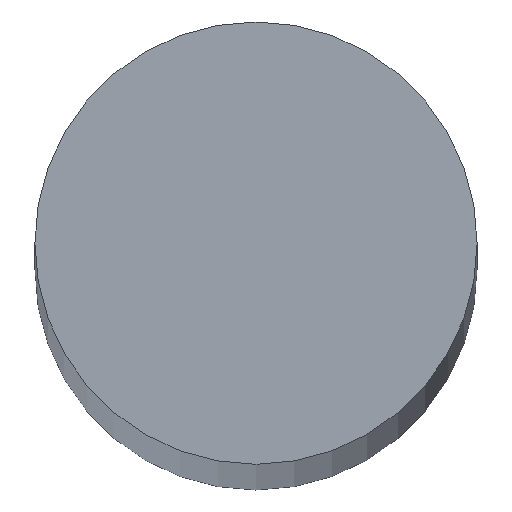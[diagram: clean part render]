
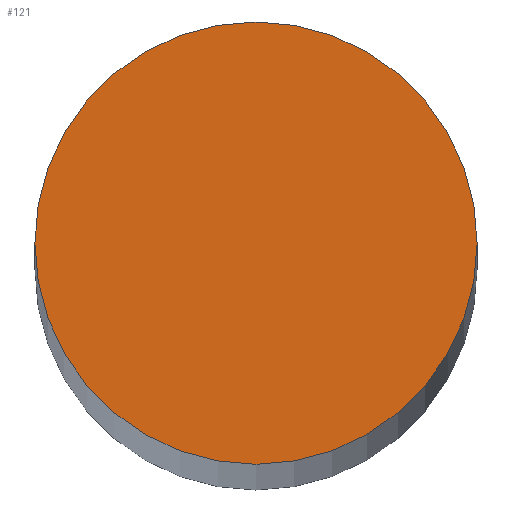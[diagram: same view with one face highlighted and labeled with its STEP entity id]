
A CAD part, top view. The second image highlights one B-rep face of the part: STEP entity #121.
In plain terms, the highlighted planar face has unit normal (0, 0, 1).
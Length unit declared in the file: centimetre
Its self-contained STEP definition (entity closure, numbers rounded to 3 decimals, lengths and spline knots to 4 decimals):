
#5 = CIRCLE ( 'NONE', #70, 0.48 ) ;
#12 = AXIS2_PLACEMENT_3D ( 'NONE', #91, #49, #149 ) ;
#17 = DIRECTION ( 'NONE',  ( 0., 0., 1. ) ) ;
#19 = FACE_OUTER_BOUND ( 'NONE', #93, .T. ) ;
#24 = DIRECTION ( 'NONE',  ( 1., 0., 0. ) ) ;
#34 = CIRCLE ( 'NONE', #12, 0.48 ) ;
#35 = EDGE_CURVE ( 'NONE', #114, #94, #5, .T. ) ;
#37 = ORIENTED_EDGE ( 'NONE', *, *, #108, .T. ) ;
#40 = CARTESIAN_POINT ( 'NONE',  ( 0., 0., 32. ) ) ;
#44 = AXIS2_PLACEMENT_3D ( 'NONE', #40, #82, #24 ) ;
#49 = DIRECTION ( 'NONE',  ( 0., 0., 1. ) ) ;
#70 = AXIS2_PLACEMENT_3D ( 'NONE', #155, #17, #115 ) ;
#72 = CARTESIAN_POINT ( 'NONE',  ( -0.48, 0., 32. ) ) ;
#82 = DIRECTION ( 'NONE',  ( 0., 0., 1. ) ) ;
#89 = CARTESIAN_POINT ( 'NONE',  ( 0.48, 0., 32. ) ) ;
#91 = CARTESIAN_POINT ( 'NONE',  ( 0., 0., 32. ) ) ;
#92 = PLANE ( 'NONE',  #44 ) ;
#93 = EDGE_LOOP ( 'NONE', ( #37, #157 ) ) ;
#94 = VERTEX_POINT ( 'NONE', #72 ) ;
#108 = EDGE_CURVE ( 'NONE', #94, #114, #34, .T. ) ;
#114 = VERTEX_POINT ( 'NONE', #89 ) ;
#115 = DIRECTION ( 'NONE',  ( 1., 0., 0. ) ) ;
#121 = ADVANCED_FACE ( 'NONE', ( #19 ), #92, .T. ) ;
#149 = DIRECTION ( 'NONE',  ( 1., 0., 0. ) ) ;
#155 = CARTESIAN_POINT ( 'NONE',  ( 0., 0., 32. ) ) ;
#157 = ORIENTED_EDGE ( 'NONE', *, *, #35, .T. ) ;
